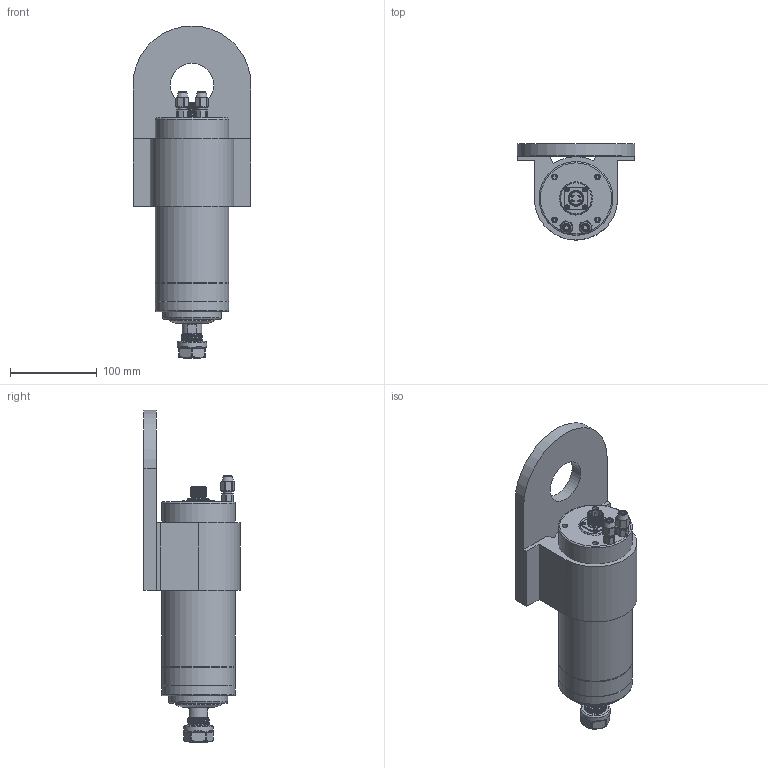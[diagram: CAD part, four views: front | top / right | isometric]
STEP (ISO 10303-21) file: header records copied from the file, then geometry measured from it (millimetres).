
FILE_DESCRIPTION(/* description */ ('STEP AP242','CAx-IF Rec.Pracs.---Representation and Presentation of Product Manufacturing Information (PMI)---4.0---2014-10-13','CAx-IF Rec.Pracs.---3D Tessellated Geometry---0.4---2014-09-14','2;1'),/* implementation_level */ '2;1');
FILE_NAME(/* name */ '616d76b6f3a1bb1c58bc97d2',/* time_stamp */ '2021-10-18T13:29:28+00:00',/* author */ (''),/* organization */ (''),/* preprocessor_version */ 'ST-DEVELOPER v18.1',/* originating_system */ ' ',/* authorisation */ ' ');
FILE_SCHEMA (('AP242_MANAGED_MODEL_BASED_3D_ENGINEERING_MIM_LF { 1 0 10303 442 1 1 4 }'));
Length unit declared in the file: metre
Products named in the file (35): Assembly 1; Part 1; Part 2; Assembly 2 <1>; spindle-gdz-23-1-d85-1.snapshot.6 <1>; M3; Nozzle; WS16J4Z <1>; WS16J4Z; Part 26; Part 29; Part 25; Part 28; Part 27; GDZ-23-1 <1>; Part 18; Part 23; Part 11; Part 16; Part 15; Part 10; Part 13; Part 6; Part 20; Part 7; Part 22; Part 12; Part 8; Part 17; Part 19; Part 14; GDZ-23-1; Part 9; Part 21; ER20A
Assembly tree (38 placements, depth 5):
  Assembly 1
    Part 1
    Part 2
    Assembly 2 <1>
      spindle-gdz-23-1-d85-1.snapshot.6 <1>
        M3  x4
        Nozzle  x2
        WS16J4Z <1>
          WS16J4Z
          Part 26
          Part 29
          Part 25
          Part 28
          Part 27
        GDZ-23-1 <1>
          Part 18
          Part 23
          Part 11
          Part 16
          Part 15
          Part 10
          Part 13
          Part 6
          Part 20
          Part 7
          Part 22
          Part 12
          Part 8
          Part 17
          Part 19
          Part 14
          GDZ-23-1
          Part 9
          Part 21
        ER20A
Bounding box: 136 x 110.73 x 382.74 mm (x, y, z)
Volume: 1931470.6 mm3; surface area: 249800.9 mm2
Topology: 34 solids, 42 shells, 781 faces, 1735 edges, 1082 vertices
Faces by surface type: plane 339, cylinder 257, torus 85, bspline 57, cone 37, sphere 6
Full cylindrical faces by diameter (mm): 1 x4, 1.5 x8, 3 x4, 3.2 x4, 3.5 x4, 5 x6, 5.4 x12, 6 x12, 8.5 x2, 9.5 x2, 13.5 x1, 15 x2, 15.8 x1, 15.9 x1, 16 x1, 18 x1, 21.1 x1, 21.4 x1, 22.2 x1, 23 x2, 25.5 x1, 26 x1, 34 x1, 50 x1, 53 x1, 68 x1, 80 x1, 85 x5, 85.02 x2
Entity records: 22721 total; most frequent: CARTESIAN_POINT 8559, DIRECTION 2817, ORIENTED_EDGE 2456, EDGE_CURVE 1228, AXIS2_PLACEMENT_3D 1099, FACE_BOUND 870, EDGE_LOOP 869, VERTEX_POINT 834
